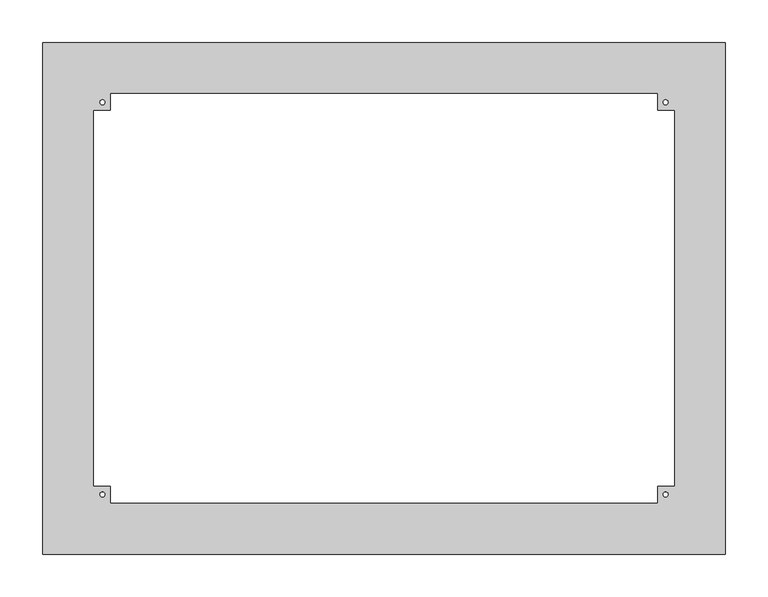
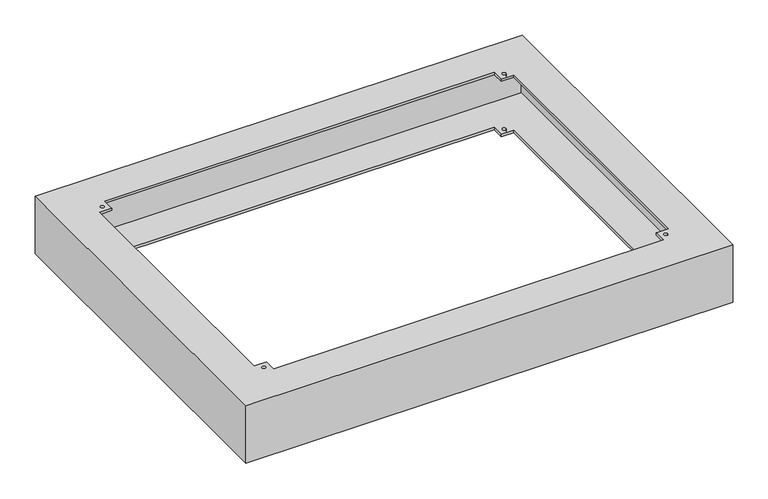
"""IFC4 building model written with IfcOpenShell, lengths in millimetres: furniture geometry, НВО_КНС_Сейсмоцоколь_DKC : Сейсмоцоколь 800x600x100мм."""

import ifcopenshell
import ifcopenshell.guid

model = None  # the IFC model being written
_history = None  # IfcOwnerHistory: only IFC2X3 demands one
_inside = {}  # id of a spatial element -> (the spatial element, [elements in it])
_under = {}  # id of a project, library or spatial element -> (it, [spatial elements below it])
_declared = {}  # id of a project -> (the project, [libraries it declares])
_typed = {}  # id of a type object -> (the type object, [elements of that type])
_made_of = {}  # id of a material, layer set ... -> (it, [elements and type objects made of it])


def new_model(schema):
    """Start an empty IFC model of exactly this schema.

    Asked for "IFC4X3", IfcOpenShell would pick the latest addendum, in which some entities
    have other attributes; the version numbers below select the first issue.
    IFC2X3 requires an IfcOwnerHistory on every rooted entity: one is made here for all.
    """
    global model, _history
    if schema == "IFC4X3":
        model = ifcopenshell.file(schema_version=(4, 3, 0, 0))
    else:
        model = ifcopenshell.file(schema=schema)
    _inside.clear()
    _under.clear()
    _declared.clear()
    _typed.clear()
    _made_of.clear()
    _history = None
    if model.schema == "IFC2X3":
        org = make("IfcOrganization", Name="unknown")
        user = make(
            "IfcPersonAndOrganization",
            ThePerson=make("IfcPerson", FamilyName="unknown"),
            TheOrganization=org,
        )
        app = make(
            "IfcApplication",
            ApplicationDeveloper=org,
            Version="unknown",
            ApplicationFullName="unknown",
            ApplicationIdentifier="unknown",
        )
        _history = make(
            "IfcOwnerHistory",
            OwningUser=user,
            OwningApplication=app,
            ChangeAction="ADDED",
            CreationDate=0,
        )
    return model


def make(cls, **values):
    """One entity of the class cls with the attributes given. An attribute that is None is left unset."""
    return model.create_entity(
        cls, **{name: value for name, value in values.items() if value is not None}
    )


def rooted(cls, **values):
    """An entity with a GlobalId (a new one), such as an element, a storey or a relation."""
    return make(cls, GlobalId=ifcopenshell.guid.new(), OwnerHistory=_history, **values)


def si_unit(unit_type, name, prefix=None):
    """IfcSIUnit, for example si_unit("LENGTHUNIT", "METRE", prefix="MILLI")."""
    return make("IfcSIUnit", UnitType=unit_type, Prefix=prefix, Name=name)


def assignment(units):
    """IfcUnitAssignment: the units of a project."""
    return None if units is None else make("IfcUnitAssignment", Units=units)


def point(xyz):
    """IfcCartesianPoint."""
    return None if xyz is None else make("IfcCartesianPoint", Coordinates=xyz)


def direction(xyz):
    """IfcDirection."""
    return None if xyz is None else make("IfcDirection", DirectionRatios=xyz)


def frame(location, z_axis=None, x_axis=None):
    """IfcAxis2Placement3D, a coordinate frame: its origin and axes. An axis left out is left unset."""
    return make(
        "IfcAxis2Placement3D",
        Location=point(location),
        Axis=direction(z_axis),
        RefDirection=direction(x_axis),
    )


def origin():
    """The frame at (0, 0, 0) with its axes left unset."""
    return frame((0.0, 0.0, 0.0))


def place(relative_to, where):
    """IfcLocalPlacement: puts the frame where relative to a parent placement (None: the world)."""
    return make(
        "IfcLocalPlacement", PlacementRelTo=relative_to, RelativePlacement=where
    )


def context(
    kind, dimensions, precision=None, world=None, true_north=None, identifier=None
):
    """IfcGeometricRepresentationContext, for example the 3D "Model" context."""
    return make(
        "IfcGeometricRepresentationContext",
        ContextIdentifier=identifier,
        ContextType=kind,
        CoordinateSpaceDimension=dimensions,
        Precision=precision,
        WorldCoordinateSystem=world,
        TrueNorth=true_north,
    )


def project(units=None, contexts=None):
    """IfcProject with its units and contexts."""
    return rooted(
        "IfcProject",
        Name="project",
        RepresentationContexts=contexts,
        UnitsInContext=assignment(units),
    )


def spatial(cls, under=None, at=None, **own):
    """A site, building, storey or space (cls), placed at a placement, below another one or the project."""
    s = rooted(cls, ObjectPlacement=at, **own)
    if under is not None:
        _under.setdefault(under.id(), (under, []))[1].append(s)
    return s


def polyline(points):
    """IfcPolyline through the points."""
    return make("IfcPolyline", Points=[point(p) for p in points])


def circle_curve(where, radius):
    """IfcCircle in the frame where."""
    return make("IfcCircle", Position=where, Radius=radius)


def shape(context_of_items, identifier, shape_type, items):
    """IfcShapeRepresentation: the items that make up one representation, for example the "Body"."""
    return make(
        "IfcShapeRepresentation",
        ContextOfItems=context_of_items,
        RepresentationIdentifier=identifier,
        RepresentationType=shape_type,
        Items=items,
    )


def source(mapping_origin, context_of_items, identifier, shape_type, items):
    """IfcRepresentationMap: a shape defined once, which mapped items show again and again."""
    return make(
        "IfcRepresentationMap",
        MappingOrigin=mapping_origin,
        MappedRepresentation=shape(context_of_items, identifier, shape_type, items),
    )


def transform(
    local_origin,
    x_axis=None,
    y_axis=None,
    z_axis=None,
    scale=None,
    scale2=None,
    scale3=None,
    uniform=True,
):
    """IfcCartesianTransformationOperator3D, or its non-uniform kind. x_axis, y_axis, z_axis: its Axis1, 2, 3."""
    if uniform:
        return make(
            "IfcCartesianTransformationOperator3D",
            Axis1=direction(x_axis),
            Axis2=direction(y_axis),
            LocalOrigin=point(local_origin),
            Scale=scale,
            Axis3=direction(z_axis),
        )
    return make(
        "IfcCartesianTransformationOperator3DnonUniform",
        Axis1=direction(x_axis),
        Axis2=direction(y_axis),
        LocalOrigin=point(local_origin),
        Scale=scale,
        Axis3=direction(z_axis),
        Scale2=scale2,
        Scale3=scale3,
    )


def mapped(mapping_source, mapping_target):
    """IfcMappedItem: shows the shape of a source again, moved by a transform."""
    return make(
        "IfcMappedItem", MappingSource=mapping_source, MappingTarget=mapping_target
    )


def made_of(thing, what):
    """Note that an element or type object is made of a material, layer set ...; save() writes the relation."""
    if what is not None:
        _made_of.setdefault(what.id(), (what, []))[1].append(thing)
    return thing


def element(
    cls,
    number,
    at=None,
    inside=None,
    cuts=None,
    type_object=None,
    material=None,
    context=None,
    identifier="Body",
    shape_type=None,
    held_by="IfcProductDefinitionShape",
    body=None,
    shapes=None,
    **own,
):
    """One element of the class cls, such as IfcWall. Its Tag is "e" and its number.

    at: its placement. inside: the storey or other place that contains it. cuts: it is an
    opening in that element (IfcRelVoidsElement). A single representation is given by context,
    identifier, shape_type and body (its items); several are given by shapes. held_by: the class
    of the entity that holds the representations. save() writes the other relations.
    """
    e = rooted(cls, Tag="e%d" % number, ObjectPlacement=at, **own)
    if body is not None:
        shapes = [shape(context, identifier, shape_type, body)]
    if shapes is not None:
        e.Representation = make(held_by, Representations=shapes)
    if inside is not None:
        _inside.setdefault(inside.id(), (inside, []))[1].append(e)
    if cuts is not None:
        rooted(
            "IfcRelVoidsElement", RelatingBuildingElement=cuts, RelatedOpeningElement=e
        )
    if type_object is not None:
        _typed.setdefault(type_object.id(), (type_object, []))[1].append(e)
    return made_of(e, material)


def aggregate(whole, parts):
    """IfcRelAggregates: a whole, such as a stair, and the parts it consists of."""
    return rooted("IfcRelAggregates", RelatingObject=whole, RelatedObjects=parts)


def save(model, path):
    """Write the relations noted so far, then the file.

    IfcRelAggregates (storeys below a building ...), IfcRelContainedInSpatialStructure (elements
    in a storey), IfcRelDefinesByType, IfcRelAssociatesMaterial and IfcRelDeclares: one each for
    every whole, place, type object, material and project.
    """
    for whole, parts in _under.values():
        aggregate(whole, parts)
    for where, things in _inside.values():
        rooted(
            "IfcRelContainedInSpatialStructure",
            RelatedElements=things,
            RelatingStructure=where,
        )
    for kind, things in _typed.values():
        rooted("IfcRelDefinesByType", RelatedObjects=things, RelatingType=kind)
    for what, things in _made_of.values():
        rooted("IfcRelAssociatesMaterial", RelatedObjects=things, RelatingMaterial=what)
    for by, libraries in _declared.values():
        rooted("IfcRelDeclares", RelatingContext=by, RelatedDefinitions=libraries)
    model.write(path)


def plane_surface(at):
    """IfcPlane: the flat surface through the origin of the frame at, square to its z axis."""
    return make("IfcPlane", Position=at)


def revolved_surface(curve, axis_point, axis_direction):
    """IfcSurfaceOfRevolution: the curve turned about the line through axis_point along axis_direction."""
    return make(
        "IfcSurfaceOfRevolution",
        SweptCurve=make("IfcArbitraryOpenProfileDef", ProfileType="CURVE", Curve=curve),
        AxisPosition=make("IfcAxis1Placement", Location=point(axis_point), Axis=direction(axis_direction)),
    )


def advanced_brep(points, edges, surfaces, faces):
    """IfcAdvancedBrep: a solid bounded by faces that lie on surfaces and meet in shared edges.

    An edge is (start, end): straight between two places in points (the first is 0);
    or (start, end, curve); or (start, end, curve, False) where it runs against its curve.
    A face is (place in surfaces, loops), or (place, loops, False) where it looks against
    its surface's normal. A loop lists edges by number (the first is 1), with a minus sign
    where the edge is run from its end to its start. The first loop is the outer one.
    """
    corners = [point(p) for p in points]
    vertices = [make("IfcVertexPoint", VertexGeometry=c) for c in corners]
    made = []
    for start, end, *more in edges:
        made.append(
            make(
                "IfcEdgeCurve",
                EdgeStart=vertices[start],
                EdgeEnd=vertices[end],
                EdgeGeometry=more[0] if more else make("IfcPolyline", Points=[corners[start], corners[end]]),
                SameSense=more[1] if len(more) > 1 else True,
            )
        )
    hull = []
    for where, loops, *sense in faces:
        bounds = []
        for j, loop in enumerate(loops):
            ring = [make("IfcOrientedEdge", EdgeElement=made[abs(k) - 1], Orientation=k > 0) for k in loop]
            bounds.append(
                make(
                    "IfcFaceOuterBound" if j == 0 else "IfcFaceBound",
                    Bound=make("IfcEdgeLoop", EdgeList=ring),
                    Orientation=True,
                )
            )
        hull.append(make("IfcAdvancedFace", Bounds=bounds, FaceSurface=surfaces[where], SameSense=sense[0] if sense else True))
    return make("IfcAdvancedBrep", Outer=make("IfcClosedShell", CfsFaces=hull))


def furniture_30f0d79d(model_context):
    return source(origin(), model_context, "Body", "AdvancedBrep", [
        advanced_brep(
        [(400.0, 300.0, 100.0), (-400.0, 300.0, 100.0), (-400.0, -300.0, 100.0), (400.0, -300.0, 100.0), (320.0, 240.0, 100.0), (320.0, 220.0, 100.0), (340.0, 220.0, 100.0), (340.0, -220.0, 100.0), (320.0, -220.0, 100.0), (320.0, -240.0, 100.0), (-320.0, -240.0, 100.0), (-320.0, -220.0, 100.0), (-340.0, -220.0, 100.0), (-340.0, 220.0, 100.0), (-320.0, 220.0, 100.0), (-320.0, 240.0, 100.0), (-332.8696247, 230.0, 100.0), (-327.1303753, 230.0, 100.0), (327.1303753, 230.0, 100.0), (332.8696247, 230.0, 100.0), (-332.8696247, -230.0, 100.0), (-327.1303753, -230.0, 100.0), (327.1303753, -230.0, 100.0), (332.8696247, -230.0, 100.0), (400.0, 300.0, 0.0), (400.0, -300.0, 0.0), (-400.0, -300.0, 0.0), (-400.0, 300.0, 0.0), (320.0, 240.0, 0.0), (-320.0, 240.0, 0.0), (-320.0, 220.0, 0.0), (-340.0, 220.0, 0.0), (-340.0, -220.0, 0.0), (-320.0, -220.0, 0.0), (-320.0, -240.0, 0.0), (320.0, -240.0, 0.0), (320.0, -220.0, 0.0), (340.0, -220.0, 0.0), (340.0, 220.0, 0.0), (320.0, 220.0, 0.0), (-332.8696247, 230.0, 0.0), (-327.1303753, 230.0, 0.0), (327.1303753, 230.0, 0.0), (332.8696247, 230.0, 0.0), (-332.8696247, -230.0, 0.0), (-327.1303753, -230.0, 0.0), (327.1303753, -230.0, 0.0), (332.8696247, -230.0, 0.0), (320.0, 240.0, 96.0), (320.0, 220.0, 96.0), (320.0, 220.0, 4.0), (320.0, 240.0, 4.0), (340.0, 220.0, 96.0), (340.0, 220.0, 4.0), (340.0, -220.0, 96.0), (340.0, -220.0, 4.0), (320.0, -220.0, 96.0), (320.0, -220.0, 4.0), (320.0, -240.0, 96.0), (320.0, -240.0, 4.0), (-320.0, -240.0, 96.0), (-320.0, -240.0, 4.0), (-320.0, -220.0, 96.0), (-320.0, -220.0, 4.0), (-340.0, -220.0, 96.0), (-340.0, -220.0, 4.0), (-340.0, 220.0, 96.0), (-340.0, 220.0, 4.0), (-320.0, 220.0, 96.0), (-320.0, 220.0, 4.0), (-320.0, 240.0, 96.0), (-320.0, 240.0, 4.0), (-332.8696247, 230.0, 96.0), (-327.1303753, 230.0, 96.0), (-327.1303753, 230.0, 4.0), (-332.8696247, 230.0, 4.0), (327.1303753, 230.0, 96.0), (332.8696247, 230.0, 96.0), (332.8696247, 230.0, 4.0), (327.1303753, 230.0, 4.0), (-332.8696247, -230.0, 96.0), (-327.1303753, -230.0, 96.0), (-327.1303753, -230.0, 4.0), (-332.8696247, -230.0, 4.0), (327.1303753, -230.0, 96.0), (332.8696247, -230.0, 96.0), (332.8696247, -230.0, 4.0), (327.1303753, -230.0, 4.0), (396.0, 296.0, 96.0), (396.0, -296.0, 96.0), (-396.0, -296.0, 96.0), (-396.0, 296.0, 96.0), (396.0, 296.0, 4.0), (-396.0, 296.0, 4.0), (-396.0, -296.0, 4.0), (396.0, -296.0, 4.0)],
        [
            (0, 1),
            (1, 2),
            (2, 3),
            (3, 0),
            (4, 5),
            (5, 6),
            (6, 7),
            (7, 8),
            (8, 9),
            (9, 10),
            (10, 11),
            (11, 12),
            (12, 13),
            (13, 14),
            (14, 15),
            (15, 4),
            (16, 17, circle_curve(frame((-330.0, 230.0, 100.0), z_axis=(0.0, 0.0, -1.0), x_axis=(1.0, 0.0, 0.0)), 2.8696247)),
            (17, 16, circle_curve(frame((-330.0, 230.0, 100.0), z_axis=(0.0, 0.0, -1.0), x_axis=(1.0, 0.0, 0.0)), 2.8696247)),
            (18, 19, circle_curve(frame((330.0, 230.0, 100.0), z_axis=(0.0, 0.0, -1.0), x_axis=(1.0, 0.0, 0.0)), 2.8696247)),
            (19, 18, circle_curve(frame((330.0, 230.0, 100.0), z_axis=(0.0, 0.0, -1.0), x_axis=(1.0, 0.0, 0.0)), 2.8696247)),
            (20, 21, circle_curve(frame((-330.0, -230.0, 100.0), z_axis=(0.0, 0.0, -1.0), x_axis=(1.0, 0.0, 0.0)), 2.8696247)),
            (21, 20, circle_curve(frame((-330.0, -230.0, 100.0), z_axis=(0.0, 0.0, -1.0), x_axis=(1.0, 0.0, 0.0)), 2.8696247)),
            (22, 23, circle_curve(frame((330.0, -230.0, 100.0), z_axis=(0.0, 0.0, -1.0), x_axis=(1.0, 0.0, 0.0)), 2.8696247)),
            (23, 22, circle_curve(frame((330.0, -230.0, 100.0), z_axis=(0.0, 0.0, -1.0), x_axis=(1.0, 0.0, 0.0)), 2.8696247)),
            (24, 25),
            (25, 26),
            (26, 27),
            (27, 24),
            (28, 29),
            (29, 30),
            (30, 31),
            (31, 32),
            (32, 33),
            (33, 34),
            (34, 35),
            (35, 36),
            (36, 37),
            (37, 38),
            (38, 39),
            (39, 28),
            (40, 41, circle_curve(frame((-330.0, 230.0, 0.0), z_axis=(0.0, 0.0, 1.0), x_axis=(1.0, 0.0, 0.0)), 2.8696247)),
            (41, 40, circle_curve(frame((-330.0, 230.0, 0.0), z_axis=(0.0, 0.0, 1.0), x_axis=(1.0, 0.0, 0.0)), 2.8696247)),
            (42, 43, circle_curve(frame((330.0, 230.0, 0.0), z_axis=(0.0, 0.0, 1.0), x_axis=(1.0, 0.0, 0.0)), 2.8696247)),
            (43, 42, circle_curve(frame((330.0, 230.0, 0.0), z_axis=(0.0, 0.0, 1.0), x_axis=(1.0, 0.0, 0.0)), 2.8696247)),
            (44, 45, circle_curve(frame((-330.0, -230.0, 0.0), z_axis=(0.0, 0.0, 1.0), x_axis=(1.0, 0.0, 0.0)), 2.8696247)),
            (45, 44, circle_curve(frame((-330.0, -230.0, 0.0), z_axis=(0.0, 0.0, 1.0), x_axis=(1.0, 0.0, 0.0)), 2.8696247)),
            (46, 47, circle_curve(frame((330.0, -230.0, 0.0), z_axis=(0.0, 0.0, 1.0), x_axis=(1.0, 0.0, 0.0)), 2.8696247)),
            (47, 46, circle_curve(frame((330.0, -230.0, 0.0), z_axis=(0.0, 0.0, 1.0), x_axis=(1.0, 0.0, 0.0)), 2.8696247)),
            (0, 24),
            (27, 1),
            (26, 2),
            (25, 3),
            (4, 48),
            (48, 49),
            (49, 5),
            (39, 50),
            (50, 51),
            (51, 28),
            (49, 52),
            (52, 6),
            (38, 53),
            (53, 50),
            (52, 54),
            (54, 7),
            (37, 55),
            (55, 53),
            (54, 56),
            (56, 8),
            (36, 57),
            (57, 55),
            (56, 58),
            (58, 9),
            (35, 59),
            (59, 57),
            (58, 60),
            (60, 10),
            (34, 61),
            (61, 59),
            (60, 62),
            (62, 11),
            (33, 63),
            (63, 61),
            (62, 64),
            (64, 12),
            (32, 65),
            (65, 63),
            (64, 66),
            (66, 13),
            (31, 67),
            (67, 65),
            (66, 68),
            (68, 14),
            (30, 69),
            (69, 67),
            (68, 70),
            (70, 15),
            (29, 71),
            (71, 69),
            (70, 48),
            (51, 71),
            (16, 72),
            (72, 73, circle_curve(frame((-330.0, 230.0, 96.0), z_axis=(0.0, 0.0, -1.0), x_axis=(1.0, 0.0, 0.0)), 2.8696247)),
            (73, 17),
            (41, 74),
            (74, 75, circle_curve(frame((-330.0, 230.0, 4.0), z_axis=(0.0, 0.0, 1.0), x_axis=(1.0, 0.0, 0.0)), 2.8696247)),
            (75, 40),
            (73, 72, circle_curve(frame((-330.0, 230.0, 96.0), z_axis=(0.0, 0.0, -1.0), x_axis=(1.0, 0.0, 0.0)), 2.8696247)),
            (75, 74, circle_curve(frame((-330.0, 230.0, 4.0), z_axis=(0.0, 0.0, 1.0), x_axis=(1.0, 0.0, 0.0)), 2.8696247)),
            (18, 76),
            (76, 77, circle_curve(frame((330.0, 230.0, 96.0), z_axis=(0.0, 0.0, -1.0), x_axis=(1.0, 0.0, 0.0)), 2.8696247)),
            (77, 19),
            (43, 78),
            (78, 79, circle_curve(frame((330.0, 230.0, 4.0), z_axis=(0.0, 0.0, 1.0), x_axis=(1.0, 0.0, 0.0)), 2.8696247)),
            (79, 42),
            (77, 76, circle_curve(frame((330.0, 230.0, 96.0), z_axis=(0.0, 0.0, -1.0), x_axis=(1.0, 0.0, 0.0)), 2.8696247)),
            (79, 78, circle_curve(frame((330.0, 230.0, 4.0), z_axis=(0.0, 0.0, 1.0), x_axis=(1.0, 0.0, 0.0)), 2.8696247)),
            (20, 80),
            (80, 81, circle_curve(frame((-330.0, -230.0, 96.0), z_axis=(0.0, 0.0, -1.0), x_axis=(1.0, 0.0, 0.0)), 2.8696247)),
            (81, 21),
            (45, 82),
            (82, 83, circle_curve(frame((-330.0, -230.0, 4.0), z_axis=(0.0, 0.0, 1.0), x_axis=(1.0, 0.0, 0.0)), 2.8696247)),
            (83, 44),
            (81, 80, circle_curve(frame((-330.0, -230.0, 96.0), z_axis=(0.0, 0.0, -1.0), x_axis=(1.0, 0.0, 0.0)), 2.8696247)),
            (83, 82, circle_curve(frame((-330.0, -230.0, 4.0), z_axis=(0.0, 0.0, 1.0), x_axis=(1.0, 0.0, 0.0)), 2.8696247)),
            (22, 84),
            (84, 85, circle_curve(frame((330.0, -230.0, 96.0), z_axis=(0.0, 0.0, -1.0), x_axis=(1.0, 0.0, 0.0)), 2.8696247)),
            (85, 23),
            (47, 86),
            (86, 87, circle_curve(frame((330.0, -230.0, 4.0), z_axis=(0.0, 0.0, 1.0), x_axis=(1.0, 0.0, 0.0)), 2.8696247)),
            (87, 46),
            (85, 84, circle_curve(frame((330.0, -230.0, 96.0), z_axis=(0.0, 0.0, -1.0), x_axis=(1.0, 0.0, 0.0)), 2.8696247)),
            (87, 86, circle_curve(frame((330.0, -230.0, 4.0), z_axis=(0.0, 0.0, 1.0), x_axis=(1.0, 0.0, 0.0)), 2.8696247)),
            (88, 89),
            (89, 90),
            (90, 91),
            (91, 88),
            (92, 93),
            (93, 94),
            (94, 95),
            (95, 92),
            (91, 93),
            (92, 88),
            (90, 94),
            (89, 95),
        ],
        [
            plane_surface(frame((-400.0, 300.0, 100.0), z_axis=(0.0, 0.0, 1.0), x_axis=(-1.0, 0.0, 0.0))),
            plane_surface(frame((-400.0, 300.0, 0.0), z_axis=(0.0, 0.0, -1.0), x_axis=(1.0, 0.0, 0.0))),
            plane_surface(frame((400.0, 300.0, 100.0), z_axis=(0.0, 1.0, 0.0), x_axis=(0.0, 0.0, -1.0))),
            plane_surface(frame((-400.0, 300.0, 100.0), z_axis=(-1.0, 0.0, 0.0), x_axis=(0.0, 0.0, -1.0))),
            plane_surface(frame((-400.0, -300.0, 100.0), z_axis=(0.0, -1.0, 0.0), x_axis=(0.0, 0.0, -1.0))),
            plane_surface(frame((400.0, -300.0, 100.0), z_axis=(1.0, 0.0, 0.0), x_axis=(0.0, 0.0, -1.0))),
            plane_surface(frame((320.0, 240.0, 100.0), z_axis=(-1.0, 0.0, 0.0), x_axis=(0.0, 0.0, -1.0))),
            plane_surface(frame((320.0, 220.0, 100.0), z_axis=(0.0, -1.0, 0.0), x_axis=(0.0, 0.0, -1.0))),
            plane_surface(frame((340.0, 220.0, 100.0), z_axis=(-1.0, 0.0, 0.0), x_axis=(0.0, 0.0, -1.0))),
            plane_surface(frame((340.0, -220.0, 100.0), z_axis=(0.0, 1.0, 0.0), x_axis=(0.0, 0.0, -1.0))),
            plane_surface(frame((320.0, -220.0, 100.0), z_axis=(-1.0, 0.0, 0.0), x_axis=(0.0, 0.0, -1.0))),
            plane_surface(frame((320.0, -240.0, 100.0), z_axis=(0.0, 1.0, 0.0), x_axis=(0.0, 0.0, -1.0))),
            plane_surface(frame((-320.0, -240.0, 100.0), z_axis=(1.0, 0.0, 0.0), x_axis=(0.0, 0.0, -1.0))),
            plane_surface(frame((-320.0, -220.0, 100.0), z_axis=(0.0, 1.0, 0.0), x_axis=(0.0, 0.0, -1.0))),
            plane_surface(frame((-340.0, -220.0, 100.0), z_axis=(1.0, 0.0, 0.0), x_axis=(0.0, 0.0, -1.0))),
            plane_surface(frame((-340.0, 220.0, 100.0), z_axis=(0.0, -1.0, 0.0), x_axis=(0.0, 0.0, -1.0))),
            plane_surface(frame((-320.0, 220.0, 100.0), z_axis=(1.0, 0.0, 0.0), x_axis=(0.0, 0.0, -1.0))),
            plane_surface(frame((-320.0, 240.0, 100.0), z_axis=(0.0, -1.0, 0.0), x_axis=(0.0, 0.0, -1.0))),
            revolved_surface(polyline([(-327.1303753, 230.0, 96.0), (-327.1303753, 230.0, 100.0)]), (-330.0, 230.0, 0.0), (0.0, 0.0, -1.0)),
            revolved_surface(polyline([(-327.1303753, 230.0, 0.0), (-327.1303753, 230.0, 4.0)]), (-330.0, 230.0, 0.0), (0.0, 0.0, -1.0)),
            revolved_surface(polyline([(332.8696247, 230.0, 96.0), (332.8696247, 230.0, 100.0)]), (330.0, 230.0, 0.0), (0.0, 0.0, -1.0)),
            revolved_surface(polyline([(332.8696247, 230.0, 0.0), (332.8696247, 230.0, 4.0)]), (330.0, 230.0, 0.0), (0.0, 0.0, -1.0)),
            revolved_surface(polyline([(-327.1303753, -230.0, 96.0), (-327.1303753, -230.0, 100.0)]), (-330.0, -230.0, 0.0), (0.0, 0.0, -1.0)),
            revolved_surface(polyline([(-327.1303753, -230.0, 0.0), (-327.1303753, -230.0, 4.0)]), (-330.0, -230.0, 0.0), (0.0, 0.0, -1.0)),
            revolved_surface(polyline([(332.8696247, -230.0, 96.0), (332.8696247, -230.0, 100.0)]), (330.0, -230.0, 0.0), (0.0, 0.0, -1.0)),
            revolved_surface(polyline([(332.8696247, -230.0, 0.0), (332.8696247, -230.0, 4.0)]), (330.0, -230.0, 0.0), (0.0, 0.0, -1.0)),
            plane_surface(frame((-396.0, 296.0, 96.0), z_axis=(0.0, 0.0, -1.0), x_axis=(-1.0, 0.0, 0.0))),
            plane_surface(frame((-396.0, 296.0, 4.0), z_axis=(0.0, 0.0, 1.0), x_axis=(1.0, 0.0, 0.0))),
            plane_surface(frame((396.0, 296.0, 96.0), z_axis=(0.0, -1.0, 0.0), x_axis=(0.0, 0.0, -1.0))),
            plane_surface(frame((-396.0, 296.0, 96.0), z_axis=(1.0, 0.0, 0.0), x_axis=(0.0, 0.0, -1.0))),
            plane_surface(frame((-396.0, -296.0, 96.0), z_axis=(0.0, 1.0, 0.0), x_axis=(0.0, 0.0, -1.0))),
            plane_surface(frame((396.0, -296.0, 96.0), z_axis=(-1.0, 0.0, 0.0), x_axis=(0.0, 0.0, -1.0))),
        ],
        [
            (0, [[1, 2, 3, 4], [5, 6, 7, 8, 9, 10, 11, 12, 13, 14, 15, 16], [17, 18], [19, 20], [21, 22], [23, 24]]),
            (1, [[25, 26, 27, 28], [29, 30, 31, 32, 33, 34, 35, 36, 37, 38, 39, 40], [41, 42], [43, 44], [45, 46], [47, 48]]),
            (2, [[-1, 49, -28, 50]]),
            (3, [[-2, -50, -27, 51]]),
            (4, [[-3, -51, -26, 52]]),
            (5, [[-4, -52, -25, -49]]),
            (6, [[-5, 53, 54, 55]]),
            (6, [[-40, 56, 57, 58]]),
            (7, [[-6, -55, 59, 60]]),
            (7, [[-39, 61, 62, -56]]),
            (8, [[-7, -60, 63, 64]]),
            (8, [[-38, 65, 66, -61]]),
            (9, [[-8, -64, 67, 68]]),
            (9, [[-37, 69, 70, -65]]),
            (10, [[-9, -68, 71, 72]]),
            (10, [[-36, 73, 74, -69]]),
            (11, [[-10, -72, 75, 76]]),
            (11, [[-35, 77, 78, -73]]),
            (12, [[-11, -76, 79, 80]]),
            (12, [[-34, 81, 82, -77]]),
            (13, [[-12, -80, 83, 84]]),
            (13, [[-33, 85, 86, -81]]),
            (14, [[-13, -84, 87, 88]]),
            (14, [[-32, 89, 90, -85]]),
            (15, [[-14, -88, 91, 92]]),
            (15, [[-31, 93, 94, -89]]),
            (16, [[-15, -92, 95, 96]]),
            (16, [[-30, 97, 98, -93]]),
            (17, [[-16, -96, 99, -53]]),
            (17, [[-29, -58, 100, -97]]),
            (18, [[-17, 101, 102, 103]]),
            (19, [[-42, 104, 105, 106]]),
            (18, [[-18, -103, 107, -101]]),
            (19, [[-41, -106, 108, -104]]),
            (20, [[-19, 109, 110, 111]]),
            (21, [[-44, 112, 113, 114]]),
            (20, [[-20, -111, 115, -109]]),
            (21, [[-43, -114, 116, -112]]),
            (22, [[-21, 117, 118, 119]]),
            (23, [[-46, 120, 121, 122]]),
            (22, [[-22, -119, 123, -117]]),
            (23, [[-45, -122, 124, -120]]),
            (24, [[-23, 125, 126, 127]]),
            (25, [[-48, 128, 129, 130]]),
            (24, [[-24, -127, 131, -125]]),
            (25, [[-47, -130, 132, -128]]),
            (26, [[133, 134, 135, 136], [-54, -99, -95, -91, -87, -83, -79, -75, -71, -67, -63, -59], [-102, -107], [-110, -115], [-118, -123], [-126, -131]]),
            (27, [[137, 138, 139, 140], [-57, -62, -66, -70, -74, -78, -82, -86, -90, -94, -98, -100], [-105, -108], [-113, -116], [-121, -124], [-129, -132]]),
            (28, [[-136, 141, -137, 142]]),
            (29, [[-135, 143, -138, -141]]),
            (30, [[-134, 144, -139, -143]]),
            (31, [[-133, -142, -140, -144]]),
        ],
    ),
    ])


if __name__ == "__main__":
    model = new_model("IFC4")
    model_context = context("Model", 3, world=origin())
    ifc_project = project(units=[si_unit("LENGTHUNIT", "METRE", prefix="MILLI")], contexts=[model_context])
    site = spatial("IfcSite", under=ifc_project)
    building = spatial("IfcBuilding", under=site)
    placement = place(None, origin())
    furniture_shape = furniture_30f0d79d(model_context)
    element("IfcFurniture", 1, ObjectType="НВО_КНС_Сейсмоцоколь_DKC : Сейсмоцоколь 800x600x100мм", at=placement, inside=building, context=model_context, shape_type="MappedRepresentation", body=[
        mapped(furniture_shape, transform((0.0, 0.0, 0.0), x_axis=(1.0, 0.0, 0.0), y_axis=(0.0, 1.0, 0.0), z_axis=(0.0, 0.0, 1.0))),
    ])
    save(model, "model.ifc")
